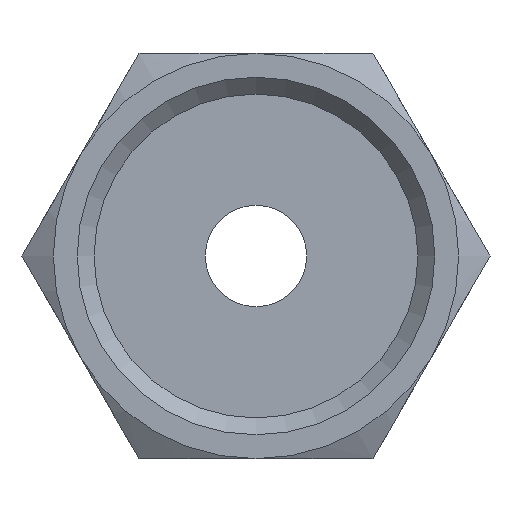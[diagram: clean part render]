
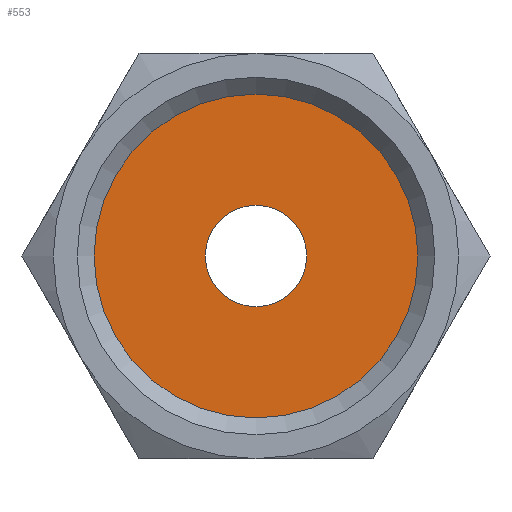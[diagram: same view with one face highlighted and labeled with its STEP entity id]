
A CAD part, front view. The second image highlights one B-rep face of the part: STEP entity #553.
In plain terms, the highlighted planar face has unit normal (0, -1, 0).
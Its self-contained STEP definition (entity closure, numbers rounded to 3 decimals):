
#45=FACE_BOUND('',#140,.T.);
#58=PLANE('',#645);
#99=FACE_OUTER_BOUND('',#139,.T.);
#139=EDGE_LOOP('',(#493,#494));
#140=EDGE_LOOP('',(#495,#496));
#195=CIRCLE('',#605,9.586);
#196=CIRCLE('',#606,9.586);
#211=CIRCLE('',#646,3.);
#212=CIRCLE('',#647,3.);
#235=VERTEX_POINT('',#875);
#236=VERTEX_POINT('',#877);
#263=VERTEX_POINT('',#1026);
#264=VERTEX_POINT('',#1027);
#293=EDGE_CURVE('',#236,#235,#195,.T.);
#294=EDGE_CURVE('',#235,#236,#196,.T.);
#342=EDGE_CURVE('',#263,#264,#211,.T.);
#343=EDGE_CURVE('',#264,#263,#212,.T.);
#493=ORIENTED_EDGE('',*,*,#293,.T.);
#494=ORIENTED_EDGE('',*,*,#294,.T.);
#495=ORIENTED_EDGE('',*,*,#342,.F.);
#496=ORIENTED_EDGE('',*,*,#343,.F.);
#553=ADVANCED_FACE('',(#99,#45),#58,.T.);
#605=AXIS2_PLACEMENT_3D('',#878,#717,#718);
#606=AXIS2_PLACEMENT_3D('',#879,#719,#720);
#645=AXIS2_PLACEMENT_3D('',#1025,#806,#807);
#646=AXIS2_PLACEMENT_3D('',#1028,#808,#809);
#647=AXIS2_PLACEMENT_3D('',#1029,#810,#811);
#717=DIRECTION('center_axis',(0.,-1.,0.));
#718=DIRECTION('ref_axis',(1.,0.,0.));
#719=DIRECTION('center_axis',(0.,-1.,0.));
#720=DIRECTION('ref_axis',(1.,0.,0.));
#806=DIRECTION('center_axis',(0.,-1.,0.));
#807=DIRECTION('ref_axis',(0.,0.,-1.));
#808=DIRECTION('center_axis',(0.,-1.,0.));
#809=DIRECTION('ref_axis',(1.,0.,0.));
#810=DIRECTION('center_axis',(0.,-1.,0.));
#811=DIRECTION('ref_axis',(1.,0.,0.));
#875=CARTESIAN_POINT('',(-9.586,14.,0.));
#877=CARTESIAN_POINT('',(9.586,14.,0.));
#878=CARTESIAN_POINT('Origin',(0.,14.,0.));
#879=CARTESIAN_POINT('Origin',(0.,14.,0.));
#1025=CARTESIAN_POINT('Origin',(3.,14.,0.));
#1026=CARTESIAN_POINT('',(3.,14.,0.));
#1027=CARTESIAN_POINT('',(-3.,14.,0.));
#1028=CARTESIAN_POINT('Origin',(0.,14.,0.));
#1029=CARTESIAN_POINT('Origin',(0.,14.,0.));
